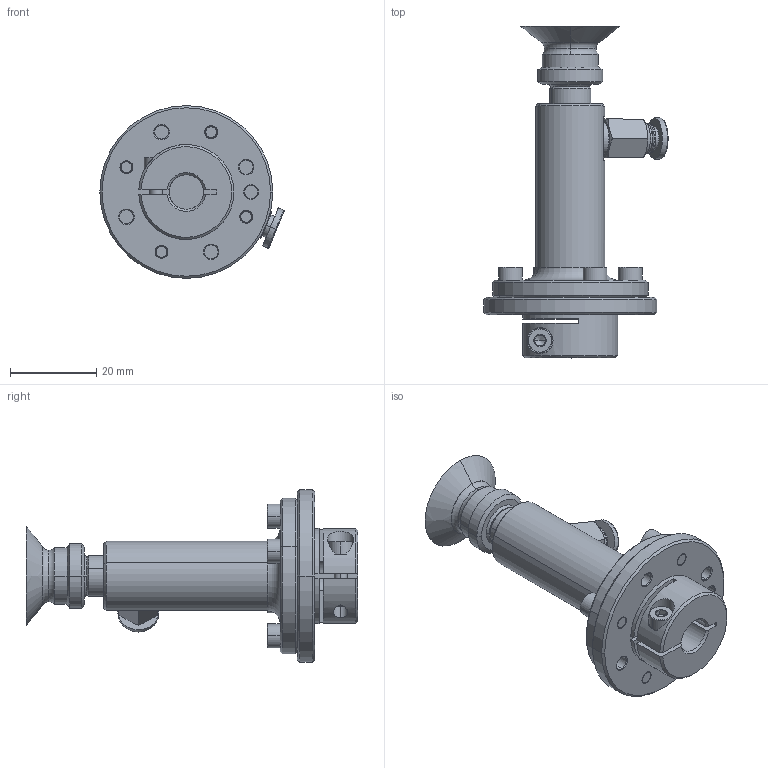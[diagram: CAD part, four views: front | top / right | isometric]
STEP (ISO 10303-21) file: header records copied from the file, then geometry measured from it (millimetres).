
FILE_DESCRIPTION((''),'2;1');
FILE_NAME('_30001_ASM','2021-09-24T15:28:23',('Administrator'),(''),'CREO PARAMETRIC BY PTC INC, 2017260','CREO PARAMETRIC BY PTC INC, 2017260','');
FILE_SCHEMA(('CONFIG_CONTROL_DESIGN'));
Length unit declared in the file: millimetre
Products named in the file (7): 2204133400; 2204160300; M3X12_GB70; M3X8_GB70; ZP20CN; PC4M5; _30001_ASM
Assembly tree (9 placements, depth 2):
  _30001_ASM
    2204133400
    2204160300
    M3X12_GB70
    M3X8_GB70  x4
    ZP20CN
    PC4M5
Bounding box: 42.64 x 76.8 x 40 mm (x, y, z)
Volume: 23474.4 mm3; surface area: 13202.1 mm2
Topology: 9 solids, 9 shells, 400 faces, 840 edges, 470 vertices
Faces by surface type: cone 153, plane 121, cylinder 92, torus 32, bspline 2
Entity records: 9079 total; most frequent: CARTESIAN_POINT 1960, DIRECTION 1610, ORIENTED_EDGE 1344, AXIS2_PLACEMENT_3D 680, EDGE_CURVE 672, VERTEX_POINT 395, EDGE_LOOP 363, CIRCLE 359
